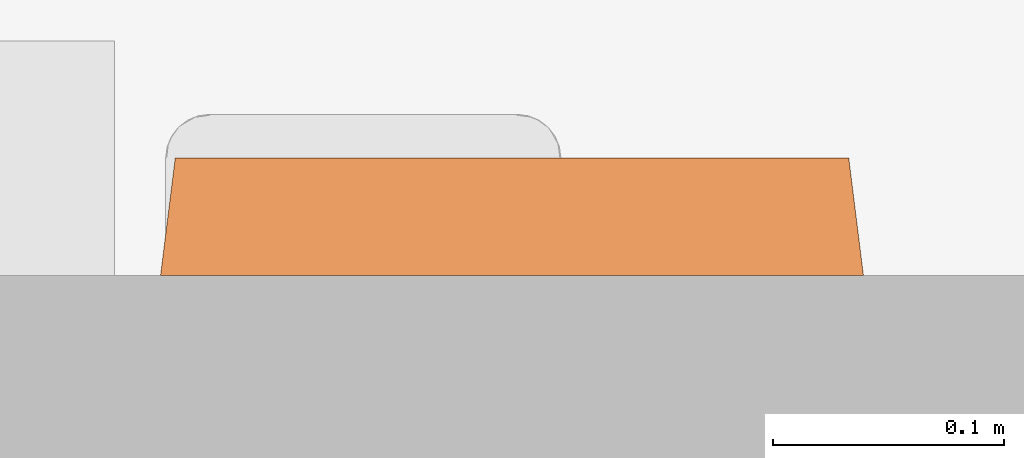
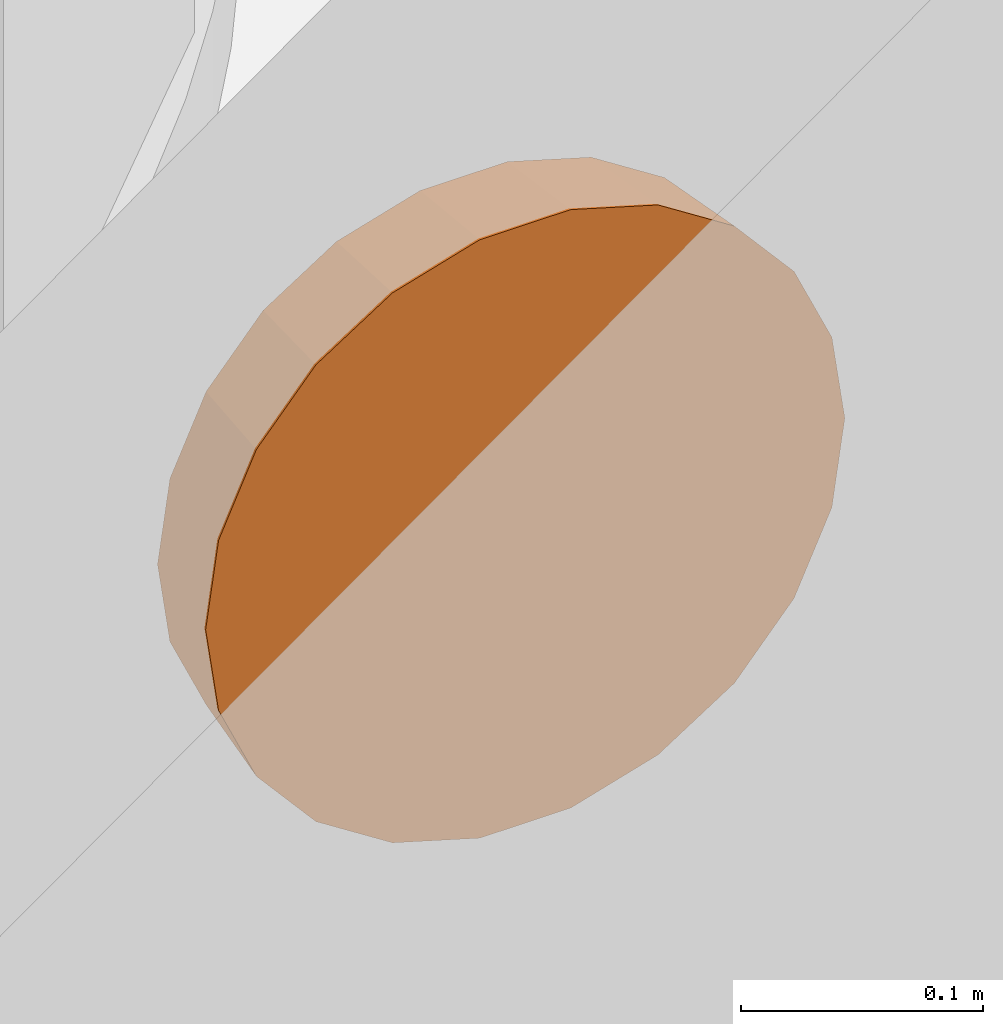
# One storey, part 9 of 12: 1 proxy.
"""IFC2X3 building model written with IfcOpenShell, lengths in feet."""

from ifc_helpers import new_model, entity, si_unit, converted_unit, derived_unit, direction, frame, origin, place, context, subcontext, project, spatial, faceted_brep, source, transform, mapped, material, type_object, type_shapes, element, save


model = new_model("IFC2X3")

# Units and contexts
model_context = context("Model", 3, precision=0.0001, world=origin(), true_north=direction((6.12303176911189e-17, 1.0)))
body_context = subcontext(model_context, "Body", "Model", "MODEL_VIEW")
ifc_project = project(units=[converted_unit("LENGTHUNIT", "FOOT", entity("IfcRatioMeasure", 0.3048), si_unit("LENGTHUNIT", "METRE"), dimensions=[1, 0, 0, 0, 0, 0, 0]), converted_unit("AREAUNIT", "SQUARE FOOT", entity("IfcRatioMeasure", 0.09290304), si_unit("AREAUNIT", "SQUARE_METRE"), dimensions=[2, 0, 0, 0, 0, 0, 0]), converted_unit("VOLUMEUNIT", "CUBIC FOOT", entity("IfcRatioMeasure", 0.028316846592), si_unit("VOLUMEUNIT", "CUBIC_METRE"), dimensions=[3, 0, 0, 0, 0, 0, 0]), converted_unit("PLANEANGLEUNIT", "DEGREE", entity("IfcRatioMeasure", 0.0174532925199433), si_unit("PLANEANGLEUNIT", "RADIAN"), dimensions=[0, 0, 0, 0, 0, 0, 0]), si_unit("MASSUNIT", "GRAM", prefix="KILO"), derived_unit("MASSDENSITYUNIT", [(si_unit("MASSUNIT", "GRAM", prefix="KILO"), 1), (si_unit("LENGTHUNIT", "METRE"), -3)]), si_unit("TIMEUNIT", "SECOND"), si_unit("FREQUENCYUNIT", "HERTZ"), si_unit("THERMODYNAMICTEMPERATUREUNIT", "DEGREE_CELSIUS"), derived_unit("THERMALTRANSMITTANCEUNIT", [(si_unit("MASSUNIT", "GRAM", prefix="KILO"), 1), (si_unit("THERMODYNAMICTEMPERATUREUNIT", "KELVIN"), -1), (si_unit("TIMEUNIT", "SECOND"), -3)]), derived_unit("VOLUMETRICFLOWRATEUNIT", [(si_unit("LENGTHUNIT", "METRE"), 3), (si_unit("TIMEUNIT", "SECOND"), -1)]), si_unit("ELECTRICCURRENTUNIT", "AMPERE"), si_unit("ELECTRICVOLTAGEUNIT", "VOLT"), si_unit("POWERUNIT", "WATT"), si_unit("FORCEUNIT", "NEWTON"), si_unit("ILLUMINANCEUNIT", "LUX"), si_unit("LUMINOUSFLUXUNIT", "LUMEN"), si_unit("LUMINOUSINTENSITYUNIT", "CANDELA"), derived_unit("USERDEFINED", [(si_unit("MASSUNIT", "GRAM", prefix="KILO"), -1), (si_unit("LENGTHUNIT", "METRE"), -2), (si_unit("TIMEUNIT", "SECOND"), 3), (si_unit("LUMINOUSFLUXUNIT", "LUMEN"), 1)]), derived_unit("LINEARVELOCITYUNIT", [(si_unit("LENGTHUNIT", "METRE"), 1), (si_unit("TIMEUNIT", "SECOND"), -1)]), si_unit("PRESSUREUNIT", "PASCAL"), derived_unit("USERDEFINED", [(si_unit("LENGTHUNIT", "METRE"), -2), (si_unit("MASSUNIT", "GRAM", prefix="KILO"), 1), (si_unit("TIMEUNIT", "SECOND"), -2)])], contexts=[model_context])

# Site, building, storey, space
site_placement = place(None, origin())
site = spatial("IfcSite", under=ifc_project, at=site_placement, Name="Default", CompositionType="ELEMENT")
building_placement = place(site_placement, origin())
building = spatial("IfcBuilding", under=site, at=building_placement, Name="EYE CLINIC:  OPTHALMOLOGY AND OPTOMETRY SERVICES (Ch. 233)", CompositionType="ELEMENT")
storey_placement = place(building_placement, origin())
storey = spatial("IfcBuildingStorey", under=building, at=storey_placement, Name="DATUM", CompositionType="ELEMENT", Elevation=0.0)
space_placement = place(storey_placement, origin())
space = spatial("IfcSpace", under=storey, at=space_placement, Name="(OPPT2)", CompositionType="ELEMENT", InteriorOrExteriorSpace="INTERNAL")

# Proxy
ifc_material = material(Name="WHITE")
building_element_proxy_type = type_object("IfcBuildingElementProxyType", Name="F3200 - Clock, Battery, 12in Dia", PredefinedType="NOTDEFINED", material=ifc_material)
shared_shape = source(origin(), body_context, "Body", "Brep", [
    faceted_brep([(0.218750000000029, 0.121113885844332, 0.16666666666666), (0.309359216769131, 0.190640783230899, 0.16666666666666), (0.3788861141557, 0.281250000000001, 0.16666666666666), (0.422592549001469, 0.386766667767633, 0.16666666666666), (0.437500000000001, 0.499999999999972, 0.16666666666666), (0.42259254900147, 0.613233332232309, 0.16666666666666), (0.378886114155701, 0.718749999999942, 0.16666666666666), (0.309359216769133, 0.809359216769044, 0.16666666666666), (0.218750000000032, 0.878886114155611, 0.16666666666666), (0.113233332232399, 0.922592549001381, 0.16666666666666), (0.0, 0.937499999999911, 0.16666666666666), (-0.113233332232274, 0.922592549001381, 0.16666666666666), (-0.218749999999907, 0.878886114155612, 0.16666666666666), (-0.309359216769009, 0.809359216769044, 0.16666666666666), (-0.378886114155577, 0.718749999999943, 0.16666666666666), (-0.422592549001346, 0.613233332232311, 0.16666666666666), (-0.437499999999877, 0.499999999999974, 0.16666666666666), (-0.422592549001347, 0.386766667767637, 0.16666666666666), (-0.378886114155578, 0.281250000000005, 0.16666666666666), (-0.309359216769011, 0.190640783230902, 0.16666666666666), (-0.218749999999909, 0.121113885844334, 0.16666666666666), (-0.113233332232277, 0.0774074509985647, 0.16666666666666), (0.0, 0.0625000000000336, 0.16666666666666), (0.113233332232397, 0.0774074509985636, 0.16666666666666), (0.42259254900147, 0.613233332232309, 0.145833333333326), (0.437500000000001, 0.49999999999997, 0.145833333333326), (0.422592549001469, 0.386766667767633, 0.145833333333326), (0.3788861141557, 0.281250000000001, 0.145833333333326), (0.309359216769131, 0.190640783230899, 0.145833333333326), (0.218750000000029, 0.121113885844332, 0.145833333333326), (0.113233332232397, 0.0774074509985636, 0.145833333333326), (0.0, 0.0625000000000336, 0.145833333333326), (-0.113233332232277, 0.0774074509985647, 0.145833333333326), (-0.218749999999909, 0.121113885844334, 0.145833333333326), (-0.309359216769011, 0.190640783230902, 0.145833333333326), (-0.378886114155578, 0.281250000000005, 0.145833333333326), (-0.422592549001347, 0.386766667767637, 0.145833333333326), (-0.437499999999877, 0.499999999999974, 0.145833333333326), (-0.422592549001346, 0.613233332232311, 0.145833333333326), (-0.378886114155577, 0.718749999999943, 0.145833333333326), (-0.309359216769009, 0.809359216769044, 0.145833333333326), (-0.218749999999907, 0.878886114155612, 0.145833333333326), (-0.113233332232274, 0.922592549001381, 0.145833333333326), (0.0, 0.937499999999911, 0.145833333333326), (0.113233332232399, 0.922592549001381, 0.145833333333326), (0.218750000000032, 0.878886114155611, 0.145833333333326), (0.309359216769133, 0.809359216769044, 0.145833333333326), (0.378886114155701, 0.718749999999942, 0.145833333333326)], [[[0, 1, 2, 3, 4, 5, 6, 7, 8, 9, 10, 11, 12, 13, 14, 15, 16, 17, 18, 19, 20, 21, 22, 23]], [[24, 25, 26, 27, 28, 29, 30, 31, 32, 33, 34, 35, 36, 37, 38, 39, 40, 41, 42, 43, 44, 45, 46, 47]], [[36, 17, 16, 37]], [[35, 18, 17, 36]], [[20, 19, 34, 33]], [[35, 34, 19, 18]], [[21, 20, 33, 32]], [[22, 21, 32, 31]], [[30, 23, 22, 31]], [[29, 0, 23, 30]], [[2, 1, 28, 27]], [[29, 28, 1, 0]], [[3, 2, 27, 26]], [[4, 3, 26, 25]], [[24, 5, 4, 25]], [[47, 6, 5, 24]], [[8, 7, 46, 45]], [[47, 46, 7, 6]], [[9, 8, 45, 44]], [[10, 9, 44, 43]], [[11, 10, 43, 42]], [[12, 11, 42, 41]], [[14, 39, 38, 15]], [[15, 38, 37, 16]], [[12, 41, 40, 13]], [[40, 39, 14, 13]]]),
    faceted_brep([(-0.327430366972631, 0.122125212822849, 0.0), (-0.420626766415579, 0.229679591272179, 0.0), (0.0, 0.499999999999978, 0.0), (-0.207707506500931, 0.045184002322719, 0.0), (-0.479746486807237, 0.359133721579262, 0.0), (-0.499999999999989, 0.499999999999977, 0.0), (-0.479746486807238, 0.640866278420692, 0.0), (-0.420626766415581, 0.770320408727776, 0.0), (-0.327430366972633, 0.877874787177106, 0.0), (-0.207707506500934, 0.954815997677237, 0.0), (-0.0711574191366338, 0.994910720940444, 0.0), (0.0711574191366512, 0.994910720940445, 0.0), (0.207707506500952, 0.954815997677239, 0.0), (0.327430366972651, 0.877874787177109, 0.0), (0.4206267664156, 0.77032040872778, 0.0), (0.479746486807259, 0.640866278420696, 0.0), (0.500000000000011, 0.499999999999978, 0.0), (0.47974648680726, 0.359133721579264, 0.0), (0.420626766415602, 0.22967959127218, 0.0), (0.327430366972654, 0.12212521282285, 0.0), (0.207707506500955, 0.0451840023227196, 0.0), (0.0711574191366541, 0.00508927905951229, 0.0), (-0.0711574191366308, 0.00508927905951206, 0.0), (0.0, 0.499999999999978, 0.145833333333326), (-0.368048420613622, 0.263469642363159, 0.145833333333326), (-0.286501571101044, 0.169359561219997, 0.145833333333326), (-0.419778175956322, 0.376742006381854, 0.145833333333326), (-0.181744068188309, 0.102036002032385, 0.145833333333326), (-0.0622627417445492, 0.0669531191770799, 0.145833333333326), (-0.437499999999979, 0.499999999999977, 0.145833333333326), (0.0622627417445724, 0.0669531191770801, 0.145833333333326), (0.181744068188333, 0.102036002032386, 0.145833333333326), (0.286501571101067, 0.169359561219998, 0.145833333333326), (0.368048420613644, 0.26346964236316, 0.145833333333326), (0.419778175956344, 0.376742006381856, 0.145833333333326), (0.437500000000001, 0.499999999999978, 0.145833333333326), (-0.419778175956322, 0.623257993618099, 0.145833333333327), (-0.368048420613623, 0.736530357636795, 0.145833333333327), (-0.286501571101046, 0.830640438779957, 0.145833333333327), (-0.181744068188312, 0.89796399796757, 0.145833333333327), (-0.0622627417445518, 0.933046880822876, 0.145833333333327), (0.419778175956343, 0.623257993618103, 0.145833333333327), (0.368048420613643, 0.736530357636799, 0.145833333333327), (0.286501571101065, 0.83064043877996, 0.145833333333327), (0.18174406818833, 0.897963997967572, 0.145833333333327), (0.0622627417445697, 0.933046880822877, 0.145833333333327), (0.419778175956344, 0.376742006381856, 0.16666666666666), (0.437500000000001, 0.499999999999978, 0.16666666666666), (0.368048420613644, 0.26346964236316, 0.16666666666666), (0.0622627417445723, 0.0669531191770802, 0.166666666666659), (0.181744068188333, 0.102036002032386, 0.166666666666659), (0.286501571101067, 0.169359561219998, 0.166666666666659), (-0.0622627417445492, 0.06695311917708, 0.166666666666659), (-0.286501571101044, 0.169359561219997, 0.166666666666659), (-0.18174406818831, 0.102036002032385, 0.166666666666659), (-0.437499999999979, 0.499999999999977, 0.16666666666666), (-0.419778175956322, 0.376742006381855, 0.16666666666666), (-0.368048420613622, 0.263469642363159, 0.16666666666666), (-0.419778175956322, 0.623257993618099, 0.16666666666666), (-0.368048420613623, 0.736530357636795, 0.16666666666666), (-0.181744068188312, 0.89796399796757, 0.166666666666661), (-0.286501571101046, 0.830640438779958, 0.166666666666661), (-0.0622627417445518, 0.933046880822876, 0.166666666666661), (0.0622627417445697, 0.933046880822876, 0.166666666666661), (0.18174406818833, 0.897963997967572, 0.166666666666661), (0.286501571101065, 0.83064043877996, 0.166666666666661), (0.419778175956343, 0.623257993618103, 0.16666666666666), (0.368048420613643, 0.736530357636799, 0.16666666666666), (-0.459757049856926, 0.365003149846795, 0.16666666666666), (-0.479166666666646, 0.499999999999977, 0.16666666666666), (-0.403100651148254, 0.240942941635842, 0.16666666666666), (-0.313787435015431, 0.137869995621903, 0.166666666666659), (-0.199053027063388, 0.0641346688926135, 0.166666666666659), (-0.0681925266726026, 0.0257105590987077, 0.166666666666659), (0.068192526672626, 0.0257105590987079, 0.166666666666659), (0.199053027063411, 0.0641346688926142, 0.166666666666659), (0.313787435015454, 0.137869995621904, 0.166666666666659), (0.403100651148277, 0.240942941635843, 0.16666666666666), (0.459757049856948, 0.365003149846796, 0.16666666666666), (0.479166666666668, 0.499999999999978, 0.16666666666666), (0.459757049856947, 0.634996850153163, 0.16666666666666), (0.403100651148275, 0.759057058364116, 0.16666666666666), (0.313787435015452, 0.862130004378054, 0.166666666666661), (0.199053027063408, 0.935865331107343, 0.166666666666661), (0.068192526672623, 0.974289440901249, 0.166666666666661), (-0.0681925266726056, 0.974289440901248, 0.166666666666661), (-0.199053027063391, 0.935865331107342, 0.166666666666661), (-0.313787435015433, 0.862130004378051, 0.166666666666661), (-0.403100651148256, 0.759057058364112, 0.16666666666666), (-0.459757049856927, 0.634996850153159, 0.16666666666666)], [[[0, 1, 2]], [[0, 2, 3]], [[4, 2, 1]], [[2, 4, 5]], [[5, 6, 2]], [[2, 6, 7]], [[2, 7, 8]], [[2, 8, 9]], [[9, 10, 2]], [[11, 2, 10]], [[2, 11, 12]], [[2, 12, 13]], [[14, 2, 13]], [[2, 14, 15]], [[15, 16, 2]], [[2, 16, 17]], [[2, 17, 18]], [[18, 19, 2]], [[19, 20, 2]], [[21, 2, 20]], [[2, 21, 22]], [[22, 3, 2]], [[23, 24, 25]], [[24, 23, 26]], [[27, 23, 25]], [[23, 27, 28]], [[29, 26, 23]], [[28, 30, 23]], [[31, 23, 30]], [[23, 31, 32]], [[23, 32, 33]], [[33, 34, 23]], [[34, 35, 23]], [[23, 36, 29]], [[37, 36, 23]], [[38, 37, 23]], [[39, 38, 23]], [[23, 40, 39]], [[23, 35, 41]], [[41, 42, 23]], [[43, 23, 42]], [[43, 44, 23]], [[44, 45, 23]], [[40, 23, 45]], [[46, 47, 35, 34]], [[46, 34, 33, 48]], [[31, 30, 49, 50]], [[32, 31, 50, 51]], [[51, 48, 33, 32]], [[30, 28, 52, 49]], [[27, 25, 53, 54]], [[28, 27, 54, 52]], [[29, 55, 56, 26]], [[26, 56, 57, 24]], [[24, 57, 53, 25]], [[55, 29, 36, 58]], [[58, 36, 37, 59]], [[60, 61, 38, 39]], [[59, 37, 38, 61]], [[39, 40, 62, 60]], [[40, 45, 63, 62]], [[64, 63, 45, 44]], [[64, 44, 43, 65]], [[41, 35, 47, 66]], [[42, 41, 66, 67]], [[67, 65, 43, 42]], [[68, 55, 69]], [[56, 55, 68]], [[68, 70, 56]], [[70, 57, 56]], [[71, 57, 70]], [[57, 71, 53]], [[72, 53, 71]], [[54, 53, 72]], [[72, 73, 54]], [[73, 52, 54]], [[49, 52, 73]], [[73, 74, 49]], [[74, 50, 49]], [[75, 50, 74]], [[50, 75, 51]], [[76, 51, 75]], [[48, 51, 76]], [[76, 77, 48]], [[77, 46, 48]], [[78, 46, 77]], [[46, 78, 47]], [[78, 79, 47]], [[79, 80, 47]], [[66, 47, 80]], [[80, 81, 66]], [[66, 81, 67]], [[82, 67, 81]], [[67, 82, 65]], [[65, 82, 83]], [[64, 65, 83]], [[83, 84, 64]], [[64, 84, 63]], [[85, 63, 84]], [[63, 85, 62]], [[62, 85, 60]], [[86, 60, 85]], [[60, 86, 61]], [[61, 86, 87]], [[59, 61, 87]], [[87, 88, 59]], [[59, 88, 58]], [[89, 58, 88]], [[55, 89, 69]], [[58, 89, 55]], [[78, 17, 16, 79]], [[77, 18, 17, 78]], [[19, 76, 75, 20]], [[77, 76, 19, 18]], [[20, 75, 74, 21]], [[74, 73, 22, 21]], [[22, 73, 72, 3]], [[0, 3, 72, 71]], [[4, 1, 70, 68]], [[70, 1, 0, 71]], [[5, 4, 68, 69]], [[89, 6, 5, 69]], [[88, 7, 6, 89]], [[8, 87, 86, 9]], [[88, 87, 8, 7]], [[9, 86, 85, 10]], [[85, 84, 11, 10]], [[83, 12, 11, 84]], [[82, 13, 12, 83]], [[14, 81, 80, 15]], [[82, 81, 14, 13]], [[15, 80, 79, 16]]]),
])
type_shapes(building_element_proxy_type, [shared_shape])
proxy_placement = place(space_placement, frame((157.903453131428, 21.807625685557, 6.50000000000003), z_axis=(0.0, 1.0, 0.0), x_axis=(-1.0, 0.0, 0.0)))
element("IfcBuildingElementProxy", 1, at=proxy_placement, inside=space, type_object=building_element_proxy_type, material=ifc_material, Name="F3200 - Clock, Battery, 12in Dia:F3200 - Clock, Battery, 12in Dia", ObjectType="F3200 - Clock, Battery, 12in Dia", context=body_context, shape_type="MappedRepresentation", body=[
    mapped(shared_shape, transform((0.0, 0.0, 0.0), scale=1.0)),
])

save(model, "model.ifc")
